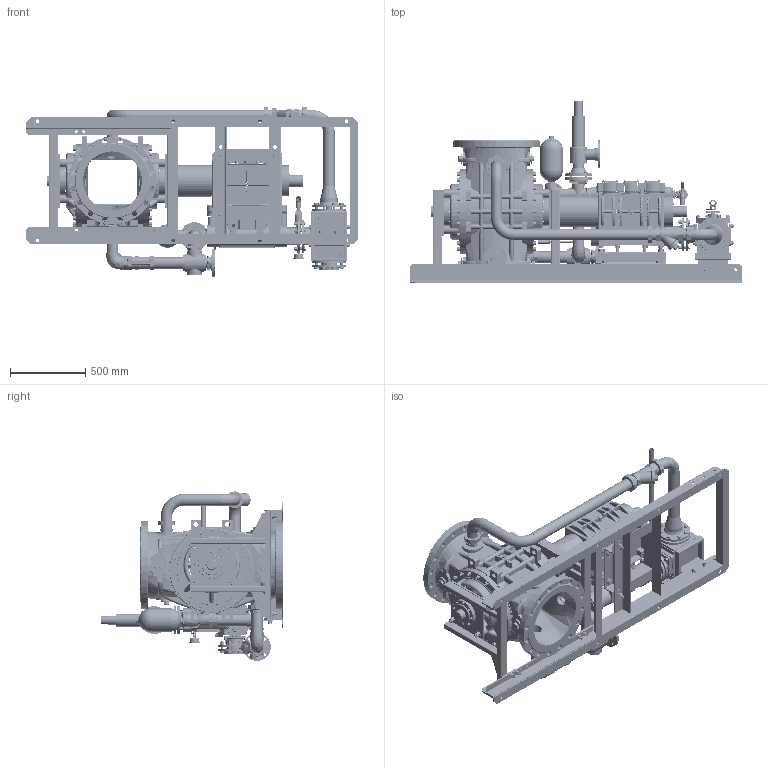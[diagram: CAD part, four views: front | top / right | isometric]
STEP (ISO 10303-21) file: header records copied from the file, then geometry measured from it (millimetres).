
FILE_DESCRIPTION (( 'STEP AP214' ), '1' );
FILE_NAME ('FD20000-09S2-01-086~0.STEP', '2020-04-15T10:04:19', ( '' ), ( '' ), 'SwSTEP 2.0', 'SolidWorks 2019', '' );
FILE_SCHEMA (( 'AUTOMOTIVE_DESIGN' ));
Length unit declared in the file: millimetre
Products named in the file (1): FD20000-09S2-01-086~0
Bounding box: 2200 x 1211 x 1124.81 mm (x, y, z)
Surface area: 14550007.1 mm2 (no closed solid volume)
Topology: 0 solids, 824 shells, 7233 faces, 23939 edges, 16568 vertices
Faces by surface type: plane 2546, cylinder 2402, cone 828, torus 737, bspline 636, sphere 84
Entity records: 428295 total; most frequent: CARTESIAN_POINT 150801, DIRECTION 41570, ORIENTED_EDGE 36118, EDGE_CURVE 23770, VERTEX_POINT 16551, AXIS2_PLACEMENT_3D 16189, CIRCLE 9591, LINE 9192
